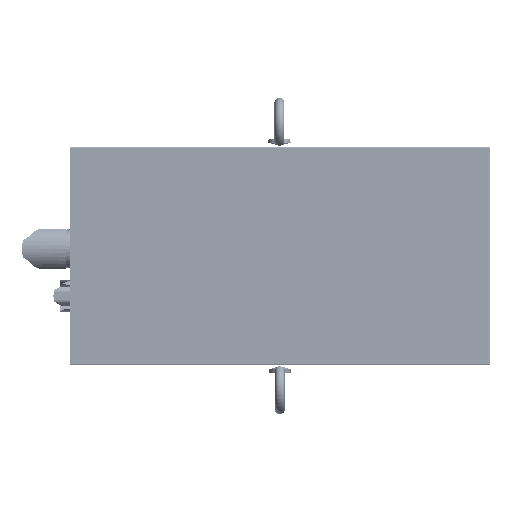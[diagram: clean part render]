
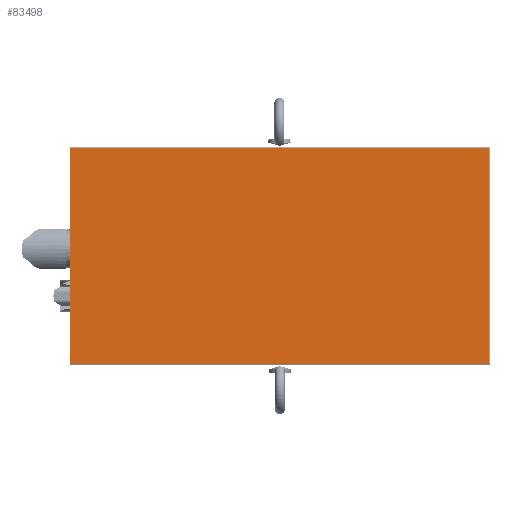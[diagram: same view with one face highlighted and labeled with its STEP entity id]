
A CAD part, top view. The second image highlights one B-rep face of the part: STEP entity #83498.
In plain terms, the highlighted planar face has unit normal (0, 0, 1).
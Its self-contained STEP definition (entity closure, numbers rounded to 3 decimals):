
#83459=CARTESIAN_POINT('',(-72.5,65.,568.));
#83460=DIRECTION('',(0.,1.,0.));
#83461=DIRECTION('',(0.,-0.,1.));
#83462=AXIS2_PLACEMENT_3D('',#83459,#83461,#83460);
#83463=PLANE('',#83462);
#83464=CARTESIAN_POINT('',(-206.5,-69.,568.));
#83465=VERTEX_POINT('',#83464);
#83466=CARTESIAN_POINT('',(61.5,-69.,568.));
#83467=VERTEX_POINT('',#83466);
#83468=CARTESIAN_POINT('',(-206.5,-69.,568.));
#83469=DIRECTION('',(1.,0.,0.));
#83470=VECTOR('',#83469,268.);
#83471=LINE('',#83468,#83470);
#83472=EDGE_CURVE('',#83465,#83467,#83471,.T.);
#83473=ORIENTED_EDGE('E8627',*,*,#83472,.T.);
#83474=CARTESIAN_POINT('',(61.5,69.,568.));
#83475=VERTEX_POINT('',#83474);
#83476=CARTESIAN_POINT('',(61.5,-69.,568.));
#83477=DIRECTION('',(0.,1.,0.));
#83478=VECTOR('',#83477,138.);
#83479=LINE('',#83476,#83478);
#83480=EDGE_CURVE('',#83467,#83475,#83479,.T.);
#83481=ORIENTED_EDGE('E8628',*,*,#83480,.T.);
#83482=CARTESIAN_POINT('',(-206.5,69.,568.));
#83483=VERTEX_POINT('',#83482);
#83484=CARTESIAN_POINT('',(61.5,69.,568.));
#83485=DIRECTION('',(-1.,0.,0.));
#83486=VECTOR('',#83485,268.);
#83487=LINE('',#83484,#83486);
#83488=EDGE_CURVE('',#83475,#83483,#83487,.T.);
#83489=ORIENTED_EDGE('E8629',*,*,#83488,.T.);
#83490=CARTESIAN_POINT('',(-206.5,69.,568.));
#83491=DIRECTION('',(0.,-1.,0.));
#83492=VECTOR('',#83491,138.);
#83493=LINE('',#83490,#83492);
#83494=EDGE_CURVE('',#83483,#83465,#83493,.T.);
#83495=ORIENTED_EDGE('E8630',*,*,#83494,.T.);
#83496=EDGE_LOOP('',(#83473,#83481,#83489,#83495));
#83497=FACE_OUTER_BOUND('',#83496,.T.);
#83498=ADVANCED_FACE('F3310',(#83497),#83463,.T.);
